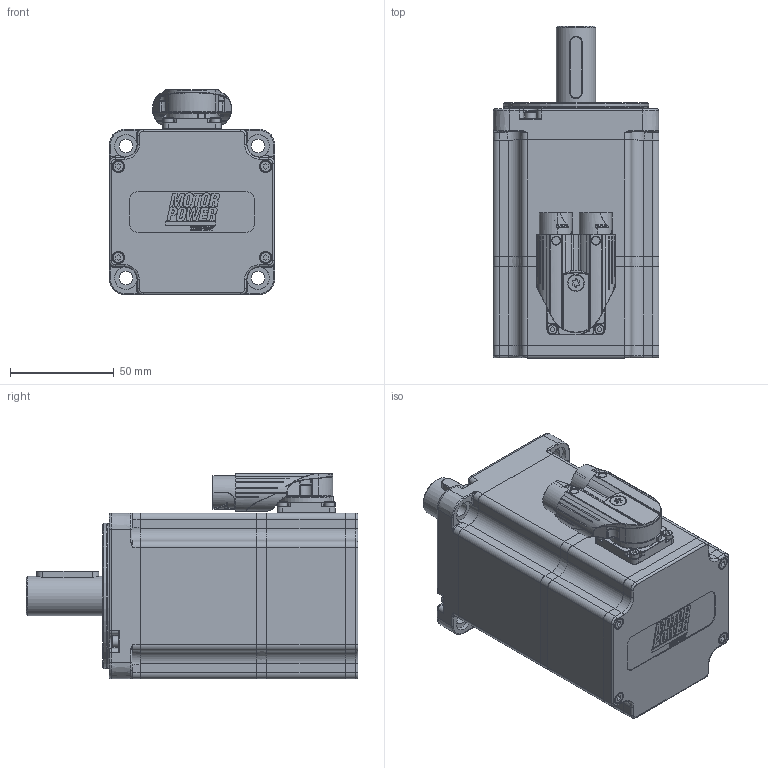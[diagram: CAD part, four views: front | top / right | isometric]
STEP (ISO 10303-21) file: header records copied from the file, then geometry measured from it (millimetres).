
FILE_DESCRIPTION(/* description */ ('Unknown'),/* implementation_level */ '2;1');
FILE_NAME(/* name */ 'TC4-80.3A.XX.X.3.M1.0.1.G11.33.80 Q0D211',/* time_stamp */ '2026-03-04T11:53:16+01:00',/* author */ ('Unknown'),/* organization */ ('Unknown'),/* preprocessor_version */ 'ST-DEVELOPER v19.4',/* originating_system */ 'Solid Edge',/* authorisation */ 'Unknown');
FILE_SCHEMA (('AUTOMOTIVE_DESIGN {1 0 10303 214 3 1 1}'));
Products named in the file (13): Q0D211 3A M1 VUOTO; 003107003286; 005911000192; 005117001560; 005113000500; 003155002201; 003151003165; 003103040148; 005911000185; 005119001500; 003003200453; 005911000202; 003251040719
Assembly tree (21 placements, depth 2):
  Q0D211 3A M1 VUOTO
    003107003286
    005911000192  x4
    005117001560
    005113000500
    003155002201
    003151003165
    003103040148
    005911000185  x4
    005119001500
    003003200453
    005911000202  x4
    003251040719
Bounding box: 80 x 160 x 99.25 mm (x, y, z)
Volume: 322040.3 mm3; surface area: 149645.9 mm2
Topology: 23 solids, 23 shells, 2775 faces, 6760 edges, 4203 vertices
Faces by surface type: plane 1059, cylinder 731, bspline 503, torus 287, cone 157, sphere 38
Full cylindrical faces by diameter (mm): 1 x21, 1.175 x12, 1.5 x1, 1.8 x5, 2 x1, 2.013 x4, 2.05 x3, 2.459 x16, 2.5 x5, 3 x8, 3.2 x5, 3.5 x18, 4 x2, 4.7 x4, 4.917 x1, 5.5 x8, 6 x9, 6.4 x1, 6.6 x4, 7 x4, 7.5 x1, 8 x1, 10 x2, 11 x4, 11.75 x1, 15 x1, 16.2 x2, 16.9 x1, 16.95 x1, 18.8 x1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
Entity records: 115920 total; most frequent: CARTESIAN_POINT 41256, ORIENTED_EDGE 12004, DIRECTION 10760, EDGE_CURVE 6002, AXIS2_PLACEMENT_3D 4153, VERTEX_POINT 3944, FACE_BOUND 3274, EDGE_LOOP 3256
